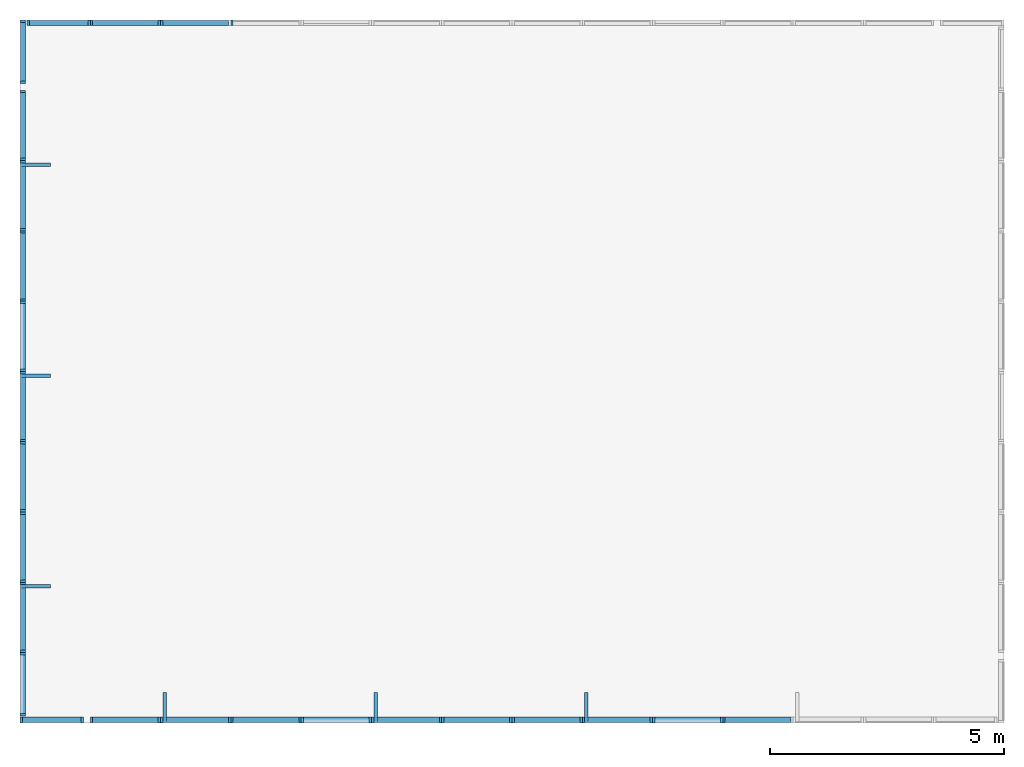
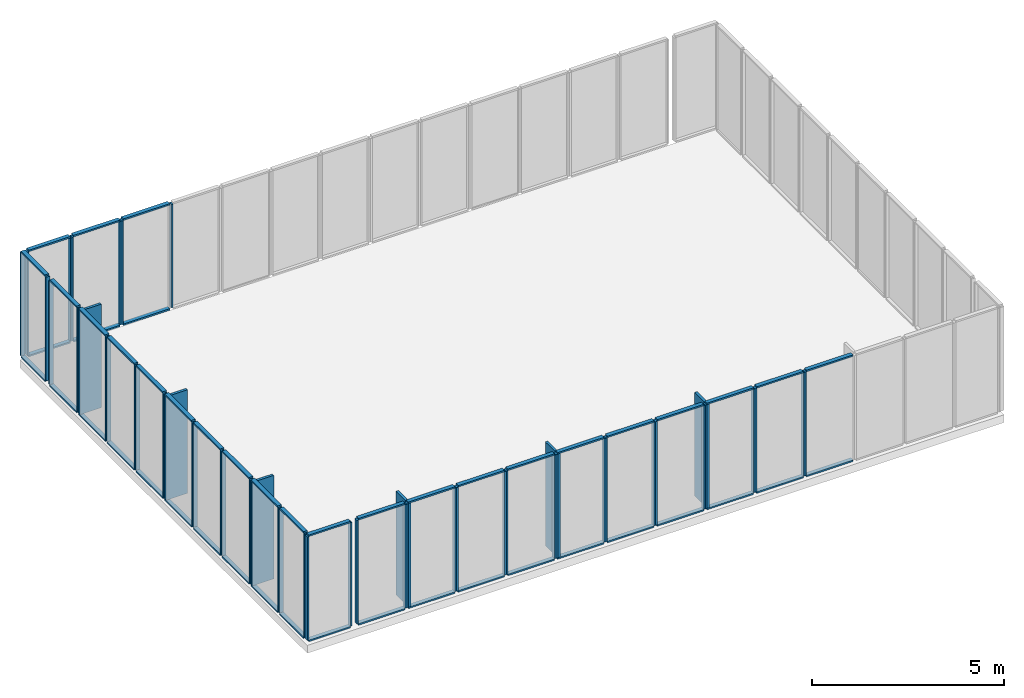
# One storey, part 1 of 3: 101 members.
"""IFC4 building model written with IfcOpenShell, lengths in metres."""

import ifcopenshell
import ifcopenshell.guid

model = None  # the IFC model being written
_history = None  # IfcOwnerHistory: only IFC2X3 demands one
_inside = {}  # id of a spatial element -> (the spatial element, [elements in it])
_under = {}  # id of a project, library or spatial element -> (it, [spatial elements below it])
_declared = {}  # id of a project -> (the project, [libraries it declares])
_typed = {}  # id of a type object -> (the type object, [elements of that type])
_made_of = {}  # id of a material, layer set ... -> (it, [elements and type objects made of it])


def new_model(schema):
    """Start an empty IFC model of exactly this schema.

    Asked for "IFC4X3", IfcOpenShell would pick the latest addendum, in which some entities
    have other attributes; the version numbers below select the first issue.
    IFC2X3 requires an IfcOwnerHistory on every rooted entity: one is made here for all.
    """
    global model, _history
    if schema == "IFC4X3":
        model = ifcopenshell.file(schema_version=(4, 3, 0, 0))
    else:
        model = ifcopenshell.file(schema=schema)
    _inside.clear()
    _under.clear()
    _declared.clear()
    _typed.clear()
    _made_of.clear()
    _history = None
    if model.schema == "IFC2X3":
        org = make("IfcOrganization", Name="unknown")
        user = make(
            "IfcPersonAndOrganization",
            ThePerson=make("IfcPerson", FamilyName="unknown"),
            TheOrganization=org,
        )
        app = make(
            "IfcApplication",
            ApplicationDeveloper=org,
            Version="unknown",
            ApplicationFullName="unknown",
            ApplicationIdentifier="unknown",
        )
        _history = make(
            "IfcOwnerHistory",
            OwningUser=user,
            OwningApplication=app,
            ChangeAction="ADDED",
            CreationDate=0,
        )
    return model


def make(cls, **values):
    """One entity of the class cls with the attributes given. An attribute that is None is left unset."""
    return model.create_entity(
        cls, **{name: value for name, value in values.items() if value is not None}
    )


def rooted(cls, **values):
    """An entity with a GlobalId (a new one), such as an element, a storey or a relation."""
    return make(cls, GlobalId=ifcopenshell.guid.new(), OwnerHistory=_history, **values)


def si_unit(unit_type, name, prefix=None):
    """IfcSIUnit, for example si_unit("LENGTHUNIT", "METRE", prefix="MILLI")."""
    return make("IfcSIUnit", UnitType=unit_type, Prefix=prefix, Name=name)


def assignment(units):
    """IfcUnitAssignment: the units of a project."""
    return None if units is None else make("IfcUnitAssignment", Units=units)


def point(xyz):
    """IfcCartesianPoint."""
    return None if xyz is None else make("IfcCartesianPoint", Coordinates=xyz)


def direction(xyz):
    """IfcDirection."""
    return None if xyz is None else make("IfcDirection", DirectionRatios=xyz)


def frame(location, z_axis=None, x_axis=None):
    """IfcAxis2Placement3D, a coordinate frame: its origin and axes. An axis left out is left unset."""
    return make(
        "IfcAxis2Placement3D",
        Location=point(location),
        Axis=direction(z_axis),
        RefDirection=direction(x_axis),
    )


def origin_with_axes():
    """The frame at (0, 0, 0) with the z axis (0, 0, 1) and the x axis (1, 0, 0) written out."""
    return frame((0.0, 0.0, 0.0), z_axis=(0.0, 0.0, 1.0), x_axis=(1.0, 0.0, 0.0))


def place(relative_to, where):
    """IfcLocalPlacement: puts the frame where relative to a parent placement (None: the world)."""
    return make(
        "IfcLocalPlacement", PlacementRelTo=relative_to, RelativePlacement=where
    )


def context(
    kind, dimensions, precision=None, world=None, true_north=None, identifier=None
):
    """IfcGeometricRepresentationContext, for example the 3D "Model" context."""
    return make(
        "IfcGeometricRepresentationContext",
        ContextIdentifier=identifier,
        ContextType=kind,
        CoordinateSpaceDimension=dimensions,
        Precision=precision,
        WorldCoordinateSystem=world,
        TrueNorth=true_north,
    )


def subcontext(parent, identifier, kind, view, scale=None):
    """IfcGeometricRepresentationSubContext, for example "Body" below "Model"."""
    return make(
        "IfcGeometricRepresentationSubContext",
        ContextIdentifier=identifier,
        ContextType=kind,
        ParentContext=parent,
        TargetScale=scale,
        TargetView=view,
    )


def project(units=None, contexts=None):
    """IfcProject with its units and contexts."""
    return rooted(
        "IfcProject",
        Name="project",
        RepresentationContexts=contexts,
        UnitsInContext=assignment(units),
    )


def spatial(cls, under=None, at=None, **own):
    """A site, building, storey or space (cls), placed at a placement, below another one or the project."""
    s = rooted(cls, ObjectPlacement=at, **own)
    if under is not None:
        _under.setdefault(under.id(), (under, []))[1].append(s)
    return s


def point_list(points):
    """IfcCartesianPointList2D or 3D."""
    cls = (
        "IfcCartesianPointList2D" if len(points[0]) == 2 else "IfcCartesianPointList3D"
    )
    return make(cls, CoordList=points)


def indexed_curve(points, segments=None, self_intersect=None):
    """IfcIndexedPolyCurve: lines and arcs through numbered points (the first is 1)."""
    return make(
        "IfcIndexedPolyCurve",
        Points=point_list(points),
        Segments=segments,
        SelfIntersect=self_intersect,
    )


def outline(outer, holes=None, kind="AREA"):
    """IfcArbitraryClosedProfileDef: a profile drawn as a closed curve; with holes, ...WithVoids."""
    if holes is None:
        return make("IfcArbitraryClosedProfileDef", ProfileType=kind, OuterCurve=outer)
    return make(
        "IfcArbitraryProfileDefWithVoids",
        ProfileType=kind,
        OuterCurve=outer,
        InnerCurves=holes,
    )


def extrude(swept, where, along, depth):
    """IfcExtrudedAreaSolid: the profile swept, set in the frame where, extruded along a direction by depth."""
    return make(
        "IfcExtrudedAreaSolid",
        SweptArea=swept,
        Position=where,
        ExtrudedDirection=direction(along),
        Depth=depth,
    )


def shape(context_of_items, identifier, shape_type, items):
    """IfcShapeRepresentation: the items that make up one representation, for example the "Body"."""
    return make(
        "IfcShapeRepresentation",
        ContextOfItems=context_of_items,
        RepresentationIdentifier=identifier,
        RepresentationType=shape_type,
        Items=items,
    )


def material(Name=None, Category=None):
    """IfcMaterial."""
    return make("IfcMaterial", Name=Name, Category=Category)


def made_of(thing, what):
    """Note that an element or type object is made of a material, layer set ...; save() writes the relation."""
    if what is not None:
        _made_of.setdefault(what.id(), (what, []))[1].append(thing)
    return thing


def element(
    cls,
    number,
    at=None,
    inside=None,
    cuts=None,
    type_object=None,
    material=None,
    context=None,
    identifier="Body",
    shape_type=None,
    held_by="IfcProductDefinitionShape",
    body=None,
    shapes=None,
    **own,
):
    """One element of the class cls, such as IfcWall. Its Tag is "e" and its number.

    at: its placement. inside: the storey or other place that contains it. cuts: it is an
    opening in that element (IfcRelVoidsElement). A single representation is given by context,
    identifier, shape_type and body (its items); several are given by shapes. held_by: the class
    of the entity that holds the representations. save() writes the other relations.
    """
    e = rooted(cls, Tag="e%d" % number, ObjectPlacement=at, **own)
    if body is not None:
        shapes = [shape(context, identifier, shape_type, body)]
    if shapes is not None:
        e.Representation = make(held_by, Representations=shapes)
    if inside is not None:
        _inside.setdefault(inside.id(), (inside, []))[1].append(e)
    if cuts is not None:
        rooted(
            "IfcRelVoidsElement", RelatingBuildingElement=cuts, RelatedOpeningElement=e
        )
    if type_object is not None:
        _typed.setdefault(type_object.id(), (type_object, []))[1].append(e)
    return made_of(e, material)


def aggregate(whole, parts):
    """IfcRelAggregates: a whole, such as a stair, and the parts it consists of."""
    return rooted("IfcRelAggregates", RelatingObject=whole, RelatedObjects=parts)


def save(model, path):
    """Write the relations noted so far, then the file.

    IfcRelAggregates (storeys below a building ...), IfcRelContainedInSpatialStructure (elements
    in a storey), IfcRelDefinesByType, IfcRelAssociatesMaterial and IfcRelDeclares: one each for
    every whole, place, type object, material and project.
    """
    for whole, parts in _under.values():
        aggregate(whole, parts)
    for where, things in _inside.values():
        rooted(
            "IfcRelContainedInSpatialStructure",
            RelatedElements=things,
            RelatingStructure=where,
        )
    for kind, things in _typed.values():
        rooted("IfcRelDefinesByType", RelatedObjects=things, RelatingType=kind)
    for what, things in _made_of.values():
        rooted("IfcRelAssociatesMaterial", RelatedObjects=things, RelatingMaterial=what)
    for by, libraries in _declared.values():
        rooted("IfcRelDeclares", RelatingContext=by, RelatedDefinitions=libraries)
    model.write(path)


model = new_model("IFC4")

# Units and contexts
model_context = context("Model", 3, precision=1e-05, world=origin_with_axes())
body_context = subcontext(model_context, "Body", "Model", "MODEL_VIEW")
ifc_project = project(units=[si_unit("AREAUNIT", "SQUARE_METRE"), si_unit("VOLUMEUNIT", "CUBIC_METRE"), si_unit("LENGTHUNIT", "METRE")], contexts=[model_context])

# Site, building, storey
site = spatial("IfcSite", under=ifc_project, Name="Synthetic Site")
building = spatial("IfcBuilding", under=site, Name="Complex Tower")
storey_placement = place(None, frame((0.0, 0.0, 23.4), z_axis=(0.0, 0.0, 1.0), x_axis=(1.0, 0.0, 0.0)))
storey = spatial("IfcBuildingStorey", under=building, at=storey_placement, Name="L07", Elevation=23.4)

# Members
ifc_material = material(Name="Aluminium")
for number, where, z_axis, x_axis, name in (
    (1, (3.0, 1.5, 0.14999999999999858), (0.0, 0.0, 1.0), (1.0, 0.0, 0.0), "CT-L07-S-001-ML"),
    (2, (4.3, 1.5, 0.14999999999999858), (0.0, 0.0, 1.0), (1.0, 0.0, 0.0), "CT-L07-S-001-MR"),
):
    element("IfcMember", number, at=place(storey_placement, frame(where, z_axis=z_axis, x_axis=x_axis)), inside=storey, material=ifc_material, Name=name, PredefinedType="MULLION", context=body_context, shape_type="SweptSolid", body=[
        extrude(outline(indexed_curve([(0.0, 0.0), (0.0, 0.12), (0.05, 0.12), (0.05, 0.0), (0.0, 0.0)], self_intersect=False)), origin_with_axes(), (0.0, 0.0, 1.0), 3.3000000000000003),
    ])
for number, where, z_axis, x_axis, name in (
    (3, (3.05, 1.5, 0.09999999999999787), (0.0, 0.0, 1.0), (1.0, 0.0, 0.0), "CT-L07-S-001-FB"),
    (4, (3.05, 1.5, 3.4499999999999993), (0.0, 0.0, 1.0), (1.0, 0.0, 0.0), "CT-L07-S-001-FT"),
):
    element("IfcMember", number, at=place(storey_placement, frame(where, z_axis=z_axis, x_axis=x_axis)), inside=storey, material=ifc_material, Name=name, PredefinedType="MULLION", context=body_context, shape_type="SweptSolid", body=[
        extrude(outline(indexed_curve([(0.0, 0.0), (0.0, 0.12), (1.25, 0.12), (1.25, 0.0), (0.0, 0.0)], self_intersect=False)), origin_with_axes(), (0.0, 0.0, 1.0), 0.05),
    ])
for number, where, z_axis, x_axis, name in (
    (5, (4.5, 1.5, 0.14999999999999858), (0.0, 0.0, 1.0), (1.0, 0.0, 0.0), "CT-L07-S-002-ML"),
    (6, (5.949999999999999, 1.5, 0.14999999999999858), (0.0, 0.0, 1.0), (1.0, 0.0, 0.0), "CT-L07-S-002-MR"),
):
    element("IfcMember", number, at=place(storey_placement, frame(where, z_axis=z_axis, x_axis=x_axis)), inside=storey, material=ifc_material, Name=name, PredefinedType="MULLION", context=body_context, shape_type="SweptSolid", body=[
        extrude(outline(indexed_curve([(0.0, 0.0), (0.0, 0.12), (0.05, 0.12), (0.05, 0.0), (0.0, 0.0)], self_intersect=False)), origin_with_axes(), (0.0, 0.0, 1.0), 3.3000000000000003),
    ])
for number, where, z_axis, x_axis, name in (
    (7, (4.55, 1.5, 0.09999999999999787), (0.0, 0.0, 1.0), (1.0, 0.0, 0.0), "CT-L07-S-002-FB"),
    (8, (4.55, 1.5, 3.4499999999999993), (0.0, 0.0, 1.0), (1.0, 0.0, 0.0), "CT-L07-S-002-FT"),
):
    element("IfcMember", number, at=place(storey_placement, frame(where, z_axis=z_axis, x_axis=x_axis)), inside=storey, material=ifc_material, Name=name, PredefinedType="MULLION", context=body_context, shape_type="SweptSolid", body=[
        extrude(outline(indexed_curve([(0.0, 0.0), (0.0, 0.12), (1.4, 0.12), (1.4, 0.0), (0.0, 0.0)], self_intersect=False)), origin_with_axes(), (0.0, 0.0, 1.0), 0.05),
    ])
for number, where, z_axis, x_axis, name in (
    (9, (6.0, 1.5, 0.14999999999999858), (0.0, 0.0, 1.0), (1.0, 0.0, 0.0), "CT-L07-S-003-ML"),
    (10, (7.449999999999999, 1.5, 0.14999999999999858), (0.0, 0.0, 1.0), (1.0, 0.0, 0.0), "CT-L07-S-003-MR"),
):
    element("IfcMember", number, at=place(storey_placement, frame(where, z_axis=z_axis, x_axis=x_axis)), inside=storey, material=ifc_material, Name=name, PredefinedType="MULLION", context=body_context, shape_type="SweptSolid", body=[
        extrude(outline(indexed_curve([(0.0, 0.0), (0.0, 0.12), (0.05, 0.12), (0.05, 0.0), (0.0, 0.0)], self_intersect=False)), origin_with_axes(), (0.0, 0.0, 1.0), 3.3000000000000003),
    ])
for number, where, z_axis, x_axis, name in (
    (11, (6.05, 1.5, 0.09999999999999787), (0.0, 0.0, 1.0), (1.0, 0.0, 0.0), "CT-L07-S-003-FB"),
    (12, (6.05, 1.5, 3.4499999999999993), (0.0, 0.0, 1.0), (1.0, 0.0, 0.0), "CT-L07-S-003-FT"),
):
    element("IfcMember", number, at=place(storey_placement, frame(where, z_axis=z_axis, x_axis=x_axis)), inside=storey, material=ifc_material, Name=name, PredefinedType="MULLION", context=body_context, shape_type="SweptSolid", body=[
        extrude(outline(indexed_curve([(0.0, 0.0), (0.0, 0.12), (1.4, 0.12), (1.4, 0.0), (0.0, 0.0)], self_intersect=False)), origin_with_axes(), (0.0, 0.0, 1.0), 0.05),
    ])
member_1_placement = place(storey_placement, frame((6.05, 1.5, 0.14999999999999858), z_axis=(0.0, 0.0, 1.0), x_axis=(1.0, 0.0, 0.0)))
element("IfcMember", 13, at=member_1_placement, inside=storey, material=ifc_material, Name="CT-L07-S-003-FIN", ObjectType="Solar shading", PredefinedType="USERDEFINED", context=body_context, shape_type="SweptSolid", body=[
    extrude(outline(indexed_curve([(0.0, 0.0), (0.0, 0.65), (0.075, 0.65), (0.075, 0.0), (0.0, 0.0)], self_intersect=False)), origin_with_axes(), (0.0, 0.0, 1.0), 3.3000000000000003),
])
for number, where, z_axis, x_axis, name in (
    (14, (7.5, 1.5, 0.14999999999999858), (0.0, 0.0, 1.0), (1.0, 0.0, 0.0), "CT-L07-S-004-ML"),
    (15, (8.95, 1.5, 0.14999999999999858), (0.0, 0.0, 1.0), (1.0, 0.0, 0.0), "CT-L07-S-004-MR"),
):
    element("IfcMember", number, at=place(storey_placement, frame(where, z_axis=z_axis, x_axis=x_axis)), inside=storey, material=ifc_material, Name=name, PredefinedType="MULLION", context=body_context, shape_type="SweptSolid", body=[
        extrude(outline(indexed_curve([(0.0, 0.0), (0.0, 0.12), (0.05, 0.12), (0.05, 0.0), (0.0, 0.0)], self_intersect=False)), origin_with_axes(), (0.0, 0.0, 1.0), 3.3000000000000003),
    ])
for number, where, z_axis, x_axis, name in (
    (16, (7.55, 1.5, 0.09999999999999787), (0.0, 0.0, 1.0), (1.0, 0.0, 0.0), "CT-L07-S-004-FB"),
    (17, (7.55, 1.5, 3.4499999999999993), (0.0, 0.0, 1.0), (1.0, 0.0, 0.0), "CT-L07-S-004-FT"),
):
    element("IfcMember", number, at=place(storey_placement, frame(where, z_axis=z_axis, x_axis=x_axis)), inside=storey, material=ifc_material, Name=name, PredefinedType="MULLION", context=body_context, shape_type="SweptSolid", body=[
        extrude(outline(indexed_curve([(0.0, 0.0), (0.0, 0.12), (1.4, 0.12), (1.4, 0.0), (0.0, 0.0)], self_intersect=False)), origin_with_axes(), (0.0, 0.0, 1.0), 0.05),
    ])
for number, where, z_axis, x_axis, name in (
    (18, (9.0, 1.5, 0.14999999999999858), (0.0, 0.0, 1.0), (1.0, 0.0, 0.0), "CT-L07-S-005-ML"),
    (19, (10.450000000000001, 1.5, 0.14999999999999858), (0.0, 0.0, 1.0), (1.0, 0.0, 0.0), "CT-L07-S-005-MR"),
):
    element("IfcMember", number, at=place(storey_placement, frame(where, z_axis=z_axis, x_axis=x_axis)), inside=storey, material=ifc_material, Name=name, PredefinedType="MULLION", context=body_context, shape_type="SweptSolid", body=[
        extrude(outline(indexed_curve([(0.0, 0.0), (0.0, 0.12), (0.05, 0.12), (0.05, 0.0), (0.0, 0.0)], self_intersect=False)), origin_with_axes(), (0.0, 0.0, 1.0), 3.3000000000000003),
    ])
for number, where, z_axis, x_axis, name in (
    (20, (9.05, 1.5, 0.09999999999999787), (0.0, 0.0, 1.0), (1.0, 0.0, 0.0), "CT-L07-S-005-FB"),
    (21, (9.05, 1.5, 3.4499999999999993), (0.0, 0.0, 1.0), (1.0, 0.0, 0.0), "CT-L07-S-005-FT"),
):
    element("IfcMember", number, at=place(storey_placement, frame(where, z_axis=z_axis, x_axis=x_axis)), inside=storey, material=ifc_material, Name=name, PredefinedType="MULLION", context=body_context, shape_type="SweptSolid", body=[
        extrude(outline(indexed_curve([(0.0, 0.0), (0.0, 0.12), (1.4, 0.12), (1.4, 0.0), (0.0, 0.0)], self_intersect=False)), origin_with_axes(), (0.0, 0.0, 1.0), 0.05),
    ])
for number, where, z_axis, x_axis, name in (
    (22, (10.5, 1.5, 0.14999999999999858), (0.0, 0.0, 1.0), (1.0, 0.0, 0.0), "CT-L07-S-006-ML"),
    (23, (11.950000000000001, 1.5, 0.14999999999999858), (0.0, 0.0, 1.0), (1.0, 0.0, 0.0), "CT-L07-S-006-MR"),
):
    element("IfcMember", number, at=place(storey_placement, frame(where, z_axis=z_axis, x_axis=x_axis)), inside=storey, material=ifc_material, Name=name, PredefinedType="MULLION", context=body_context, shape_type="SweptSolid", body=[
        extrude(outline(indexed_curve([(0.0, 0.0), (0.0, 0.12), (0.05, 0.12), (0.05, 0.0), (0.0, 0.0)], self_intersect=False)), origin_with_axes(), (0.0, 0.0, 1.0), 3.3000000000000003),
    ])
for number, where, z_axis, x_axis, name in (
    (24, (10.55, 1.5, 0.09999999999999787), (0.0, 0.0, 1.0), (1.0, 0.0, 0.0), "CT-L07-S-006-FB"),
    (25, (10.55, 1.5, 3.4499999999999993), (0.0, 0.0, 1.0), (1.0, 0.0, 0.0), "CT-L07-S-006-FT"),
):
    element("IfcMember", number, at=place(storey_placement, frame(where, z_axis=z_axis, x_axis=x_axis)), inside=storey, material=ifc_material, Name=name, PredefinedType="MULLION", context=body_context, shape_type="SweptSolid", body=[
        extrude(outline(indexed_curve([(0.0, 0.0), (0.0, 0.12), (1.4, 0.12), (1.4, 0.0), (0.0, 0.0)], self_intersect=False)), origin_with_axes(), (0.0, 0.0, 1.0), 0.05),
    ])
member_2_placement = place(storey_placement, frame((10.55, 1.5, 0.14999999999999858), z_axis=(0.0, 0.0, 1.0), x_axis=(1.0, 0.0, 0.0)))
element("IfcMember", 26, at=member_2_placement, inside=storey, material=ifc_material, Name="CT-L07-S-006-FIN", ObjectType="Solar shading", PredefinedType="USERDEFINED", context=body_context, shape_type="SweptSolid", body=[
    extrude(outline(indexed_curve([(0.0, 0.0), (0.0, 0.65), (0.075, 0.65), (0.075, 0.0), (0.0, 0.0)], self_intersect=False)), origin_with_axes(), (0.0, 0.0, 1.0), 3.3000000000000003),
])
for number, where, z_axis, x_axis, name in (
    (27, (12.0, 1.5, 0.14999999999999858), (0.0, 0.0, 1.0), (1.0, 0.0, 0.0), "CT-L07-S-007-ML"),
    (28, (13.450000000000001, 1.5, 0.14999999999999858), (0.0, 0.0, 1.0), (1.0, 0.0, 0.0), "CT-L07-S-007-MR"),
):
    element("IfcMember", number, at=place(storey_placement, frame(where, z_axis=z_axis, x_axis=x_axis)), inside=storey, material=ifc_material, Name=name, PredefinedType="MULLION", context=body_context, shape_type="SweptSolid", body=[
        extrude(outline(indexed_curve([(0.0, 0.0), (0.0, 0.12), (0.05, 0.12), (0.05, 0.0), (0.0, 0.0)], self_intersect=False)), origin_with_axes(), (0.0, 0.0, 1.0), 3.3000000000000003),
    ])
for number, where, z_axis, x_axis, name in (
    (29, (12.05, 1.5, 0.09999999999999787), (0.0, 0.0, 1.0), (1.0, 0.0, 0.0), "CT-L07-S-007-FB"),
    (30, (12.05, 1.5, 3.4499999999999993), (0.0, 0.0, 1.0), (1.0, 0.0, 0.0), "CT-L07-S-007-FT"),
):
    element("IfcMember", number, at=place(storey_placement, frame(where, z_axis=z_axis, x_axis=x_axis)), inside=storey, material=ifc_material, Name=name, PredefinedType="MULLION", context=body_context, shape_type="SweptSolid", body=[
        extrude(outline(indexed_curve([(0.0, 0.0), (0.0, 0.12), (1.4, 0.12), (1.4, 0.0), (0.0, 0.0)], self_intersect=False)), origin_with_axes(), (0.0, 0.0, 1.0), 0.05),
    ])
for number, where, z_axis, x_axis, name in (
    (31, (13.5, 1.5, 0.14999999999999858), (0.0, 0.0, 1.0), (1.0, 0.0, 0.0), "CT-L07-S-008-ML"),
    (32, (14.950000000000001, 1.5, 0.14999999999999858), (0.0, 0.0, 1.0), (1.0, 0.0, 0.0), "CT-L07-S-008-MR"),
):
    element("IfcMember", number, at=place(storey_placement, frame(where, z_axis=z_axis, x_axis=x_axis)), inside=storey, material=ifc_material, Name=name, PredefinedType="MULLION", context=body_context, shape_type="SweptSolid", body=[
        extrude(outline(indexed_curve([(0.0, 0.0), (0.0, 0.12), (0.05, 0.12), (0.05, 0.0), (0.0, 0.0)], self_intersect=False)), origin_with_axes(), (0.0, 0.0, 1.0), 3.3000000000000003),
    ])
for number, where, z_axis, x_axis, name in (
    (33, (13.55, 1.5, 0.09999999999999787), (0.0, 0.0, 1.0), (1.0, 0.0, 0.0), "CT-L07-S-008-FB"),
    (34, (13.55, 1.5, 3.4499999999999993), (0.0, 0.0, 1.0), (1.0, 0.0, 0.0), "CT-L07-S-008-FT"),
):
    element("IfcMember", number, at=place(storey_placement, frame(where, z_axis=z_axis, x_axis=x_axis)), inside=storey, material=ifc_material, Name=name, PredefinedType="MULLION", context=body_context, shape_type="SweptSolid", body=[
        extrude(outline(indexed_curve([(0.0, 0.0), (0.0, 0.12), (1.4, 0.12), (1.4, 0.0), (0.0, 0.0)], self_intersect=False)), origin_with_axes(), (0.0, 0.0, 1.0), 0.05),
    ])
for number, where, z_axis, x_axis, name in (
    (35, (15.0, 1.5, 0.14999999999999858), (0.0, 0.0, 1.0), (1.0, 0.0, 0.0), "CT-L07-S-009-ML"),
    (36, (16.45, 1.5, 0.14999999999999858), (0.0, 0.0, 1.0), (1.0, 0.0, 0.0), "CT-L07-S-009-MR"),
):
    element("IfcMember", number, at=place(storey_placement, frame(where, z_axis=z_axis, x_axis=x_axis)), inside=storey, material=ifc_material, Name=name, PredefinedType="MULLION", context=body_context, shape_type="SweptSolid", body=[
        extrude(outline(indexed_curve([(0.0, 0.0), (0.0, 0.12), (0.05, 0.12), (0.05, 0.0), (0.0, 0.0)], self_intersect=False)), origin_with_axes(), (0.0, 0.0, 1.0), 3.3000000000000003),
    ])
for number, where, z_axis, x_axis, name in (
    (37, (15.05, 1.5, 0.09999999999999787), (0.0, 0.0, 1.0), (1.0, 0.0, 0.0), "CT-L07-S-009-FB"),
    (38, (15.05, 1.5, 3.4499999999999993), (0.0, 0.0, 1.0), (1.0, 0.0, 0.0), "CT-L07-S-009-FT"),
):
    element("IfcMember", number, at=place(storey_placement, frame(where, z_axis=z_axis, x_axis=x_axis)), inside=storey, material=ifc_material, Name=name, PredefinedType="MULLION", context=body_context, shape_type="SweptSolid", body=[
        extrude(outline(indexed_curve([(0.0, 0.0), (0.0, 0.12), (1.4, 0.12), (1.4, 0.0), (0.0, 0.0)], self_intersect=False)), origin_with_axes(), (0.0, 0.0, 1.0), 0.05),
    ])
member_3_placement = place(storey_placement, frame((15.05, 1.5, 0.14999999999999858), z_axis=(0.0, 0.0, 1.0), x_axis=(1.0, 0.0, 0.0)))
element("IfcMember", 39, at=member_3_placement, inside=storey, material=ifc_material, Name="CT-L07-S-009-FIN", ObjectType="Solar shading", PredefinedType="USERDEFINED", context=body_context, shape_type="SweptSolid", body=[
    extrude(outline(indexed_curve([(0.0, 0.0), (0.0, 0.65), (0.075, 0.65), (0.075, 0.0), (0.0, 0.0)], self_intersect=False)), origin_with_axes(), (0.0, 0.0, 1.0), 3.3000000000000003),
])
for number, where, z_axis, x_axis, name in (
    (40, (16.5, 1.5, 0.14999999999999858), (0.0, 0.0, 1.0), (1.0, 0.0, 0.0), "CT-L07-S-010-ML"),
    (41, (17.95, 1.5, 0.14999999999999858), (0.0, 0.0, 1.0), (1.0, 0.0, 0.0), "CT-L07-S-010-MR"),
):
    element("IfcMember", number, at=place(storey_placement, frame(where, z_axis=z_axis, x_axis=x_axis)), inside=storey, material=ifc_material, Name=name, PredefinedType="MULLION", context=body_context, shape_type="SweptSolid", body=[
        extrude(outline(indexed_curve([(0.0, 0.0), (0.0, 0.12), (0.05, 0.12), (0.05, 0.0), (0.0, 0.0)], self_intersect=False)), origin_with_axes(), (0.0, 0.0, 1.0), 3.3000000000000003),
    ])
for number, where, z_axis, x_axis, name in (
    (42, (16.55, 1.5, 0.09999999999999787), (0.0, 0.0, 1.0), (1.0, 0.0, 0.0), "CT-L07-S-010-FB"),
    (43, (16.55, 1.5, 3.4499999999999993), (0.0, 0.0, 1.0), (1.0, 0.0, 0.0), "CT-L07-S-010-FT"),
):
    element("IfcMember", number, at=place(storey_placement, frame(where, z_axis=z_axis, x_axis=x_axis)), inside=storey, material=ifc_material, Name=name, PredefinedType="MULLION", context=body_context, shape_type="SweptSolid", body=[
        extrude(outline(indexed_curve([(0.0, 0.0), (0.0, 0.12), (1.4, 0.12), (1.4, 0.0), (0.0, 0.0)], self_intersect=False)), origin_with_axes(), (0.0, 0.0, 1.0), 0.05),
    ])
member_4_placement = place(storey_placement, frame((18.0, 1.5, 0.14999999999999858), z_axis=(0.0, 0.0, 1.0), x_axis=(1.0, 0.0, 0.0)))
element("IfcMember", 44, at=member_4_placement, inside=storey, material=ifc_material, Name="CT-L07-S-011-ML", PredefinedType="MULLION", context=body_context, shape_type="SweptSolid", body=[
    extrude(outline(indexed_curve([(0.0, 0.0), (0.0, 0.12), (0.05, 0.12), (0.05, 0.0), (0.0, 0.0)], self_intersect=False)), origin_with_axes(), (0.0, 0.0, 1.0), 3.3000000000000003),
])
for number, where, z_axis, x_axis, name in (
    (45, (18.05, 1.5, 0.09999999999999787), (0.0, 0.0, 1.0), (1.0, 0.0, 0.0), "CT-L07-S-011-FB"),
    (46, (18.05, 1.5, 3.4499999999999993), (0.0, 0.0, 1.0), (1.0, 0.0, 0.0), "CT-L07-S-011-FT"),
):
    element("IfcMember", number, at=place(storey_placement, frame(where, z_axis=z_axis, x_axis=x_axis)), inside=storey, material=ifc_material, Name=name, PredefinedType="MULLION", context=body_context, shape_type="SweptSolid", body=[
        extrude(outline(indexed_curve([(0.0, 0.0), (0.0, 0.12), (1.4, 0.12), (1.4, 0.0), (0.0, 0.0)], self_intersect=False)), origin_with_axes(), (0.0, 0.0, 1.0), 0.05),
    ])
for number, where, z_axis, x_axis, name in (
    (47, (7.549999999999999, 16.500000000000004, 0.14999999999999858), (0.0, 0.0, 1.0), (-1.0, 1.2246467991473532e-16, 0.0), "CT-L07-N-011-MR"),
    (48, (6.049999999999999, 16.500000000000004, 0.14999999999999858), (0.0, 0.0, 1.0), (-1.0, 1.2246467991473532e-16, 0.0), "CT-L07-N-012-MR"),
):
    element("IfcMember", number, at=place(storey_placement, frame(where, z_axis=z_axis, x_axis=x_axis)), inside=storey, material=ifc_material, Name=name, PredefinedType="MULLION", context=body_context, shape_type="SweptSolid", body=[
        extrude(outline(indexed_curve([(0.0, 0.0), (0.0, 0.12), (0.05, 0.12), (0.05, 0.0), (0.0, 0.0)], self_intersect=False)), origin_with_axes(), (0.0, 0.0, 1.0), 3.3000000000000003),
    ])
for number, where, z_axis, x_axis, name in (
    (49, (7.449999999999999, 16.500000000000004, 0.09999999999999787), (0.0, 0.0, 1.0), (-1.0, 1.2246467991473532e-16, 0.0), "CT-L07-N-012-FB"),
    (50, (7.449999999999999, 16.500000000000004, 3.4499999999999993), (0.0, 0.0, 1.0), (-1.0, 1.2246467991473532e-16, 0.0), "CT-L07-N-012-FT"),
):
    element("IfcMember", number, at=place(storey_placement, frame(where, z_axis=z_axis, x_axis=x_axis)), inside=storey, material=ifc_material, Name=name, PredefinedType="MULLION", context=body_context, shape_type="SweptSolid", body=[
        extrude(outline(indexed_curve([(0.0, 0.0), (0.0, 0.12), (1.4, 0.12), (1.4, 0.0), (0.0, 0.0)], self_intersect=False)), origin_with_axes(), (0.0, 0.0, 1.0), 0.05),
    ])
for number, where, z_axis, x_axis, name in (
    (51, (5.999999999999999, 16.500000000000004, 0.14999999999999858), (0.0, 0.0, 1.0), (-1.0, 1.2246467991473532e-16, 0.0), "CT-L07-N-013-ML"),
    (52, (4.549999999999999, 16.500000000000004, 0.14999999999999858), (0.0, 0.0, 1.0), (-1.0, 1.2246467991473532e-16, 0.0), "CT-L07-N-013-MR"),
):
    element("IfcMember", number, at=place(storey_placement, frame(where, z_axis=z_axis, x_axis=x_axis)), inside=storey, material=ifc_material, Name=name, PredefinedType="MULLION", context=body_context, shape_type="SweptSolid", body=[
        extrude(outline(indexed_curve([(0.0, 0.0), (0.0, 0.12), (0.05, 0.12), (0.05, 0.0), (0.0, 0.0)], self_intersect=False)), origin_with_axes(), (0.0, 0.0, 1.0), 3.3000000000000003),
    ])
for number, where, z_axis, x_axis, name in (
    (53, (5.949999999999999, 16.500000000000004, 0.09999999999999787), (0.0, 0.0, 1.0), (-1.0, 1.2246467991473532e-16, 0.0), "CT-L07-N-013-FB"),
    (54, (5.949999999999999, 16.500000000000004, 3.4499999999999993), (0.0, 0.0, 1.0), (-1.0, 1.2246467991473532e-16, 0.0), "CT-L07-N-013-FT"),
):
    element("IfcMember", number, at=place(storey_placement, frame(where, z_axis=z_axis, x_axis=x_axis)), inside=storey, material=ifc_material, Name=name, PredefinedType="MULLION", context=body_context, shape_type="SweptSolid", body=[
        extrude(outline(indexed_curve([(0.0, 0.0), (0.0, 0.12), (1.4, 0.12), (1.4, 0.0), (0.0, 0.0)], self_intersect=False)), origin_with_axes(), (0.0, 0.0, 1.0), 0.05),
    ])
for number, where, z_axis, x_axis, name in (
    (55, (4.499999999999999, 16.500000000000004, 0.14999999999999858), (0.0, 0.0, 1.0), (-1.0, 1.2246467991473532e-16, 0.0), "CT-L07-N-014-ML"),
    (56, (3.1999999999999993, 16.500000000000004, 0.14999999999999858), (0.0, 0.0, 1.0), (-1.0, 1.2246467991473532e-16, 0.0), "CT-L07-N-014-MR"),
):
    element("IfcMember", number, at=place(storey_placement, frame(where, z_axis=z_axis, x_axis=x_axis)), inside=storey, material=ifc_material, Name=name, PredefinedType="MULLION", context=body_context, shape_type="SweptSolid", body=[
        extrude(outline(indexed_curve([(0.0, 0.0), (0.0, 0.12), (0.05, 0.12), (0.05, 0.0), (0.0, 0.0)], self_intersect=False)), origin_with_axes(), (0.0, 0.0, 1.0), 3.3000000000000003),
    ])
for number, where, z_axis, x_axis, name in (
    (57, (4.449999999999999, 16.500000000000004, 0.09999999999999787), (0.0, 0.0, 1.0), (-1.0, 1.2246467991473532e-16, 0.0), "CT-L07-N-014-FB"),
    (58, (4.449999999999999, 16.500000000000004, 3.4499999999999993), (0.0, 0.0, 1.0), (-1.0, 1.2246467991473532e-16, 0.0), "CT-L07-N-014-FT"),
):
    element("IfcMember", number, at=place(storey_placement, frame(where, z_axis=z_axis, x_axis=x_axis)), inside=storey, material=ifc_material, Name=name, PredefinedType="MULLION", context=body_context, shape_type="SweptSolid", body=[
        extrude(outline(indexed_curve([(0.0, 0.0), (0.0, 0.12), (1.25, 0.12), (1.25, 0.0), (0.0, 0.0)], self_intersect=False)), origin_with_axes(), (0.0, 0.0, 1.0), 0.05),
    ])
for number, where, z_axis, x_axis, name in (
    (59, (3.0, 16.5, 0.14999999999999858), (0.0, 0.0, 1.0), (-1.8369701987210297e-16, -1.0, 0.0), "CT-L07-W-001-ML"),
    (60, (2.9999999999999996, 15.2, 0.14999999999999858), (0.0, 0.0, 1.0), (-1.8369701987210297e-16, -1.0, 0.0), "CT-L07-W-001-MR"),
):
    element("IfcMember", number, at=place(storey_placement, frame(where, z_axis=z_axis, x_axis=x_axis)), inside=storey, material=ifc_material, Name=name, PredefinedType="MULLION", context=body_context, shape_type="SweptSolid", body=[
        extrude(outline(indexed_curve([(0.0, 0.0), (0.0, 0.12), (0.05, 0.12), (0.05, 0.0), (0.0, 0.0)], self_intersect=False)), origin_with_axes(), (0.0, 0.0, 1.0), 3.3000000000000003),
    ])
for number, where, z_axis, x_axis, name in (
    (61, (3.0, 16.45, 0.09999999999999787), (0.0, 0.0, 1.0), (-1.8369701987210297e-16, -1.0, 0.0), "CT-L07-W-001-FB"),
    (62, (3.0, 16.45, 3.4499999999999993), (0.0, 0.0, 1.0), (-1.8369701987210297e-16, -1.0, 0.0), "CT-L07-W-001-FT"),
):
    element("IfcMember", number, at=place(storey_placement, frame(where, z_axis=z_axis, x_axis=x_axis)), inside=storey, material=ifc_material, Name=name, PredefinedType="MULLION", context=body_context, shape_type="SweptSolid", body=[
        extrude(outline(indexed_curve([(0.0, 0.0), (0.0, 0.12), (1.25, 0.12), (1.25, 0.0), (0.0, 0.0)], self_intersect=False)), origin_with_axes(), (0.0, 0.0, 1.0), 0.05),
    ])
for number, where, z_axis, x_axis, name in (
    (63, (2.9999999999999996, 15.0, 0.14999999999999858), (0.0, 0.0, 1.0), (-1.8369701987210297e-16, -1.0, 0.0), "CT-L07-W-002-ML"),
    (64, (2.999999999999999, 13.549999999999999, 0.14999999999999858), (0.0, 0.0, 1.0), (-1.8369701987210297e-16, -1.0, 0.0), "CT-L07-W-002-MR"),
):
    element("IfcMember", number, at=place(storey_placement, frame(where, z_axis=z_axis, x_axis=x_axis)), inside=storey, material=ifc_material, Name=name, PredefinedType="MULLION", context=body_context, shape_type="SweptSolid", body=[
        extrude(outline(indexed_curve([(0.0, 0.0), (0.0, 0.12), (0.05, 0.12), (0.05, 0.0), (0.0, 0.0)], self_intersect=False)), origin_with_axes(), (0.0, 0.0, 1.0), 3.3000000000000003),
    ])
for number, where, z_axis, x_axis, name in (
    (65, (2.9999999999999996, 14.95, 0.09999999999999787), (0.0, 0.0, 1.0), (-1.8369701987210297e-16, -1.0, 0.0), "CT-L07-W-002-FB"),
    (66, (2.9999999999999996, 14.95, 3.4499999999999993), (0.0, 0.0, 1.0), (-1.8369701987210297e-16, -1.0, 0.0), "CT-L07-W-002-FT"),
):
    element("IfcMember", number, at=place(storey_placement, frame(where, z_axis=z_axis, x_axis=x_axis)), inside=storey, material=ifc_material, Name=name, PredefinedType="MULLION", context=body_context, shape_type="SweptSolid", body=[
        extrude(outline(indexed_curve([(0.0, 0.0), (0.0, 0.12), (1.4, 0.12), (1.4, 0.0), (0.0, 0.0)], self_intersect=False)), origin_with_axes(), (0.0, 0.0, 1.0), 0.05),
    ])
for number, where, z_axis, x_axis, name in (
    (67, (2.9999999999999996, 13.5, 0.14999999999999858), (0.0, 0.0, 1.0), (-1.8369701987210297e-16, -1.0, 0.0), "CT-L07-W-003-ML"),
    (68, (2.999999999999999, 12.049999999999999, 0.14999999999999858), (0.0, 0.0, 1.0), (-1.8369701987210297e-16, -1.0, 0.0), "CT-L07-W-003-MR"),
):
    element("IfcMember", number, at=place(storey_placement, frame(where, z_axis=z_axis, x_axis=x_axis)), inside=storey, material=ifc_material, Name=name, PredefinedType="MULLION", context=body_context, shape_type="SweptSolid", body=[
        extrude(outline(indexed_curve([(0.0, 0.0), (0.0, 0.12), (0.05, 0.12), (0.05, 0.0), (0.0, 0.0)], self_intersect=False)), origin_with_axes(), (0.0, 0.0, 1.0), 3.3000000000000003),
    ])
for number, where, z_axis, x_axis, name in (
    (69, (2.9999999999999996, 13.45, 0.09999999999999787), (0.0, 0.0, 1.0), (-1.8369701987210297e-16, -1.0, 0.0), "CT-L07-W-003-FB"),
    (70, (2.9999999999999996, 13.45, 3.4499999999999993), (0.0, 0.0, 1.0), (-1.8369701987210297e-16, -1.0, 0.0), "CT-L07-W-003-FT"),
):
    element("IfcMember", number, at=place(storey_placement, frame(where, z_axis=z_axis, x_axis=x_axis)), inside=storey, material=ifc_material, Name=name, PredefinedType="MULLION", context=body_context, shape_type="SweptSolid", body=[
        extrude(outline(indexed_curve([(0.0, 0.0), (0.0, 0.12), (1.4, 0.12), (1.4, 0.0), (0.0, 0.0)], self_intersect=False)), origin_with_axes(), (0.0, 0.0, 1.0), 0.05),
    ])
member_5_placement = place(storey_placement, frame((2.9999999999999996, 13.45, 0.14999999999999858), z_axis=(0.0, 0.0, 1.0), x_axis=(-1.8369701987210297e-16, -1.0, 0.0)))
element("IfcMember", 71, at=member_5_placement, inside=storey, material=ifc_material, Name="CT-L07-W-003-FIN", ObjectType="Solar shading", PredefinedType="USERDEFINED", context=body_context, shape_type="SweptSolid", body=[
    extrude(outline(indexed_curve([(0.0, 0.0), (0.0, 0.65), (0.075, 0.65), (0.075, 0.0), (0.0, 0.0)], self_intersect=False)), origin_with_axes(), (0.0, 0.0, 1.0), 3.3000000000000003),
])
for number, where, z_axis, x_axis, name in (
    (72, (2.999999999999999, 12.0, 0.14999999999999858), (0.0, 0.0, 1.0), (-1.8369701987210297e-16, -1.0, 0.0), "CT-L07-W-004-ML"),
    (73, (2.9999999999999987, 10.549999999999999, 0.14999999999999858), (0.0, 0.0, 1.0), (-1.8369701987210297e-16, -1.0, 0.0), "CT-L07-W-004-MR"),
):
    element("IfcMember", number, at=place(storey_placement, frame(where, z_axis=z_axis, x_axis=x_axis)), inside=storey, material=ifc_material, Name=name, PredefinedType="MULLION", context=body_context, shape_type="SweptSolid", body=[
        extrude(outline(indexed_curve([(0.0, 0.0), (0.0, 0.12), (0.05, 0.12), (0.05, 0.0), (0.0, 0.0)], self_intersect=False)), origin_with_axes(), (0.0, 0.0, 1.0), 3.3000000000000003),
    ])
for number, where, z_axis, x_axis, name in (
    (74, (2.999999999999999, 11.95, 0.09999999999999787), (0.0, 0.0, 1.0), (-1.8369701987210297e-16, -1.0, 0.0), "CT-L07-W-004-FB"),
    (75, (2.999999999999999, 11.95, 3.4499999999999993), (0.0, 0.0, 1.0), (-1.8369701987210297e-16, -1.0, 0.0), "CT-L07-W-004-FT"),
):
    element("IfcMember", number, at=place(storey_placement, frame(where, z_axis=z_axis, x_axis=x_axis)), inside=storey, material=ifc_material, Name=name, PredefinedType="MULLION", context=body_context, shape_type="SweptSolid", body=[
        extrude(outline(indexed_curve([(0.0, 0.0), (0.0, 0.12), (1.4, 0.12), (1.4, 0.0), (0.0, 0.0)], self_intersect=False)), origin_with_axes(), (0.0, 0.0, 1.0), 0.05),
    ])
for number, where, z_axis, x_axis, name in (
    (76, (2.9999999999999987, 10.5, 0.14999999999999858), (0.0, 0.0, 1.0), (-1.8369701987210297e-16, -1.0, 0.0), "CT-L07-W-005-ML"),
    (77, (2.9999999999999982, 9.049999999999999, 0.14999999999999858), (0.0, 0.0, 1.0), (-1.8369701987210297e-16, -1.0, 0.0), "CT-L07-W-005-MR"),
):
    element("IfcMember", number, at=place(storey_placement, frame(where, z_axis=z_axis, x_axis=x_axis)), inside=storey, material=ifc_material, Name=name, PredefinedType="MULLION", context=body_context, shape_type="SweptSolid", body=[
        extrude(outline(indexed_curve([(0.0, 0.0), (0.0, 0.12), (0.05, 0.12), (0.05, 0.0), (0.0, 0.0)], self_intersect=False)), origin_with_axes(), (0.0, 0.0, 1.0), 3.3000000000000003),
    ])
for number, where, z_axis, x_axis, name in (
    (78, (2.9999999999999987, 10.45, 0.09999999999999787), (0.0, 0.0, 1.0), (-1.8369701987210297e-16, -1.0, 0.0), "CT-L07-W-005-FB"),
    (79, (2.9999999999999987, 10.45, 3.4499999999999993), (0.0, 0.0, 1.0), (-1.8369701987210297e-16, -1.0, 0.0), "CT-L07-W-005-FT"),
):
    element("IfcMember", number, at=place(storey_placement, frame(where, z_axis=z_axis, x_axis=x_axis)), inside=storey, material=ifc_material, Name=name, PredefinedType="MULLION", context=body_context, shape_type="SweptSolid", body=[
        extrude(outline(indexed_curve([(0.0, 0.0), (0.0, 0.12), (1.4, 0.12), (1.4, 0.0), (0.0, 0.0)], self_intersect=False)), origin_with_axes(), (0.0, 0.0, 1.0), 0.05),
    ])
for number, where, z_axis, x_axis, name in (
    (80, (2.9999999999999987, 9.0, 0.14999999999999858), (0.0, 0.0, 1.0), (-1.8369701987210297e-16, -1.0, 0.0), "CT-L07-W-006-ML"),
    (81, (2.9999999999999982, 7.549999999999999, 0.14999999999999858), (0.0, 0.0, 1.0), (-1.8369701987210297e-16, -1.0, 0.0), "CT-L07-W-006-MR"),
):
    element("IfcMember", number, at=place(storey_placement, frame(where, z_axis=z_axis, x_axis=x_axis)), inside=storey, material=ifc_material, Name=name, PredefinedType="MULLION", context=body_context, shape_type="SweptSolid", body=[
        extrude(outline(indexed_curve([(0.0, 0.0), (0.0, 0.12), (0.05, 0.12), (0.05, 0.0), (0.0, 0.0)], self_intersect=False)), origin_with_axes(), (0.0, 0.0, 1.0), 3.3000000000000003),
    ])
for number, where, z_axis, x_axis, name in (
    (82, (2.9999999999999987, 8.95, 0.09999999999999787), (0.0, 0.0, 1.0), (-1.8369701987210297e-16, -1.0, 0.0), "CT-L07-W-006-FB"),
    (83, (2.9999999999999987, 8.95, 3.4499999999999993), (0.0, 0.0, 1.0), (-1.8369701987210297e-16, -1.0, 0.0), "CT-L07-W-006-FT"),
):
    element("IfcMember", number, at=place(storey_placement, frame(where, z_axis=z_axis, x_axis=x_axis)), inside=storey, material=ifc_material, Name=name, PredefinedType="MULLION", context=body_context, shape_type="SweptSolid", body=[
        extrude(outline(indexed_curve([(0.0, 0.0), (0.0, 0.12), (1.4, 0.12), (1.4, 0.0), (0.0, 0.0)], self_intersect=False)), origin_with_axes(), (0.0, 0.0, 1.0), 0.05),
    ])
member_6_placement = place(storey_placement, frame((2.9999999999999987, 8.95, 0.14999999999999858), z_axis=(0.0, 0.0, 1.0), x_axis=(-1.8369701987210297e-16, -1.0, 0.0)))
element("IfcMember", 84, at=member_6_placement, inside=storey, material=ifc_material, Name="CT-L07-W-006-FIN", ObjectType="Solar shading", PredefinedType="USERDEFINED", context=body_context, shape_type="SweptSolid", body=[
    extrude(outline(indexed_curve([(0.0, 0.0), (0.0, 0.65), (0.075, 0.65), (0.075, 0.0), (0.0, 0.0)], self_intersect=False)), origin_with_axes(), (0.0, 0.0, 1.0), 3.3000000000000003),
])
for number, where, z_axis, x_axis, name in (
    (85, (2.9999999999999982, 7.499999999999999, 0.14999999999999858), (0.0, 0.0, 1.0), (-1.8369701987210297e-16, -1.0, 0.0), "CT-L07-W-007-ML"),
    (86, (2.999999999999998, 6.049999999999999, 0.14999999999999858), (0.0, 0.0, 1.0), (-1.8369701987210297e-16, -1.0, 0.0), "CT-L07-W-007-MR"),
):
    element("IfcMember", number, at=place(storey_placement, frame(where, z_axis=z_axis, x_axis=x_axis)), inside=storey, material=ifc_material, Name=name, PredefinedType="MULLION", context=body_context, shape_type="SweptSolid", body=[
        extrude(outline(indexed_curve([(0.0, 0.0), (0.0, 0.12), (0.05, 0.12), (0.05, 0.0), (0.0, 0.0)], self_intersect=False)), origin_with_axes(), (0.0, 0.0, 1.0), 3.3000000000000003),
    ])
for number, where, z_axis, x_axis, name in (
    (87, (2.9999999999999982, 7.449999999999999, 0.09999999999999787), (0.0, 0.0, 1.0), (-1.8369701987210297e-16, -1.0, 0.0), "CT-L07-W-007-FB"),
    (88, (2.9999999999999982, 7.449999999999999, 3.4499999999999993), (0.0, 0.0, 1.0), (-1.8369701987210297e-16, -1.0, 0.0), "CT-L07-W-007-FT"),
):
    element("IfcMember", number, at=place(storey_placement, frame(where, z_axis=z_axis, x_axis=x_axis)), inside=storey, material=ifc_material, Name=name, PredefinedType="MULLION", context=body_context, shape_type="SweptSolid", body=[
        extrude(outline(indexed_curve([(0.0, 0.0), (0.0, 0.12), (1.4, 0.12), (1.4, 0.0), (0.0, 0.0)], self_intersect=False)), origin_with_axes(), (0.0, 0.0, 1.0), 0.05),
    ])
for number, where, z_axis, x_axis, name in (
    (89, (2.9999999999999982, 5.999999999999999, 0.14999999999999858), (0.0, 0.0, 1.0), (-1.8369701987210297e-16, -1.0, 0.0), "CT-L07-W-008-ML"),
    (90, (2.999999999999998, 4.549999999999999, 0.14999999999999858), (0.0, 0.0, 1.0), (-1.8369701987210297e-16, -1.0, 0.0), "CT-L07-W-008-MR"),
):
    element("IfcMember", number, at=place(storey_placement, frame(where, z_axis=z_axis, x_axis=x_axis)), inside=storey, material=ifc_material, Name=name, PredefinedType="MULLION", context=body_context, shape_type="SweptSolid", body=[
        extrude(outline(indexed_curve([(0.0, 0.0), (0.0, 0.12), (0.05, 0.12), (0.05, 0.0), (0.0, 0.0)], self_intersect=False)), origin_with_axes(), (0.0, 0.0, 1.0), 3.3000000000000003),
    ])
for number, where, z_axis, x_axis, name in (
    (91, (2.9999999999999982, 5.949999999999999, 0.09999999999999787), (0.0, 0.0, 1.0), (-1.8369701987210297e-16, -1.0, 0.0), "CT-L07-W-008-FB"),
    (92, (2.9999999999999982, 5.949999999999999, 3.4499999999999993), (0.0, 0.0, 1.0), (-1.8369701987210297e-16, -1.0, 0.0), "CT-L07-W-008-FT"),
):
    element("IfcMember", number, at=place(storey_placement, frame(where, z_axis=z_axis, x_axis=x_axis)), inside=storey, material=ifc_material, Name=name, PredefinedType="MULLION", context=body_context, shape_type="SweptSolid", body=[
        extrude(outline(indexed_curve([(0.0, 0.0), (0.0, 0.12), (1.4, 0.12), (1.4, 0.0), (0.0, 0.0)], self_intersect=False)), origin_with_axes(), (0.0, 0.0, 1.0), 0.05),
    ])
for number, where, z_axis, x_axis, name in (
    (93, (2.999999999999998, 4.499999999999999, 0.14999999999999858), (0.0, 0.0, 1.0), (-1.8369701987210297e-16, -1.0, 0.0), "CT-L07-W-009-ML"),
    (94, (2.9999999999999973, 3.0499999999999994, 0.14999999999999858), (0.0, 0.0, 1.0), (-1.8369701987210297e-16, -1.0, 0.0), "CT-L07-W-009-MR"),
):
    element("IfcMember", number, at=place(storey_placement, frame(where, z_axis=z_axis, x_axis=x_axis)), inside=storey, material=ifc_material, Name=name, PredefinedType="MULLION", context=body_context, shape_type="SweptSolid", body=[
        extrude(outline(indexed_curve([(0.0, 0.0), (0.0, 0.12), (0.05, 0.12), (0.05, 0.0), (0.0, 0.0)], self_intersect=False)), origin_with_axes(), (0.0, 0.0, 1.0), 3.3000000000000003),
    ])
for number, where, z_axis, x_axis, name in (
    (95, (2.999999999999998, 4.449999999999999, 0.09999999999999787), (0.0, 0.0, 1.0), (-1.8369701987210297e-16, -1.0, 0.0), "CT-L07-W-009-FB"),
    (96, (2.999999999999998, 4.449999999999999, 3.4499999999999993), (0.0, 0.0, 1.0), (-1.8369701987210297e-16, -1.0, 0.0), "CT-L07-W-009-FT"),
):
    element("IfcMember", number, at=place(storey_placement, frame(where, z_axis=z_axis, x_axis=x_axis)), inside=storey, material=ifc_material, Name=name, PredefinedType="MULLION", context=body_context, shape_type="SweptSolid", body=[
        extrude(outline(indexed_curve([(0.0, 0.0), (0.0, 0.12), (1.4, 0.12), (1.4, 0.0), (0.0, 0.0)], self_intersect=False)), origin_with_axes(), (0.0, 0.0, 1.0), 0.05),
    ])
member_7_placement = place(storey_placement, frame((2.999999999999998, 4.449999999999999, 0.14999999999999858), z_axis=(0.0, 0.0, 1.0), x_axis=(-1.8369701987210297e-16, -1.0, 0.0)))
element("IfcMember", 97, at=member_7_placement, inside=storey, material=ifc_material, Name="CT-L07-W-009-FIN", ObjectType="Solar shading", PredefinedType="USERDEFINED", context=body_context, shape_type="SweptSolid", body=[
    extrude(outline(indexed_curve([(0.0, 0.0), (0.0, 0.65), (0.075, 0.65), (0.075, 0.0), (0.0, 0.0)], self_intersect=False)), origin_with_axes(), (0.0, 0.0, 1.0), 3.3000000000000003),
])
for number, where, z_axis, x_axis, name in (
    (98, (2.9999999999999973, 2.999999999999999, 0.14999999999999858), (0.0, 0.0, 1.0), (-1.8369701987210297e-16, -1.0, 0.0), "CT-L07-W-010-ML"),
    (99, (2.999999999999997, 1.6999999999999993, 0.14999999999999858), (0.0, 0.0, 1.0), (-1.8369701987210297e-16, -1.0, 0.0), "CT-L07-W-010-MR"),
):
    element("IfcMember", number, at=place(storey_placement, frame(where, z_axis=z_axis, x_axis=x_axis)), inside=storey, material=ifc_material, Name=name, PredefinedType="MULLION", context=body_context, shape_type="SweptSolid", body=[
        extrude(outline(indexed_curve([(0.0, 0.0), (0.0, 0.12), (0.05, 0.12), (0.05, 0.0), (0.0, 0.0)], self_intersect=False)), origin_with_axes(), (0.0, 0.0, 1.0), 3.3000000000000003),
    ])
for number, where, z_axis, x_axis, name in (
    (100, (2.9999999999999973, 2.9499999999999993, 0.09999999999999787), (0.0, 0.0, 1.0), (-1.8369701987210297e-16, -1.0, 0.0), "CT-L07-W-010-FB"),
    (101, (2.9999999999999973, 2.9499999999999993, 3.4499999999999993), (0.0, 0.0, 1.0), (-1.8369701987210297e-16, -1.0, 0.0), "CT-L07-W-010-FT"),
):
    element("IfcMember", number, at=place(storey_placement, frame(where, z_axis=z_axis, x_axis=x_axis)), inside=storey, material=ifc_material, Name=name, PredefinedType="MULLION", context=body_context, shape_type="SweptSolid", body=[
        extrude(outline(indexed_curve([(0.0, 0.0), (0.0, 0.12), (1.25, 0.12), (1.25, 0.0), (0.0, 0.0)], self_intersect=False)), origin_with_axes(), (0.0, 0.0, 1.0), 0.05),
    ])

save(model, "model.ifc")
